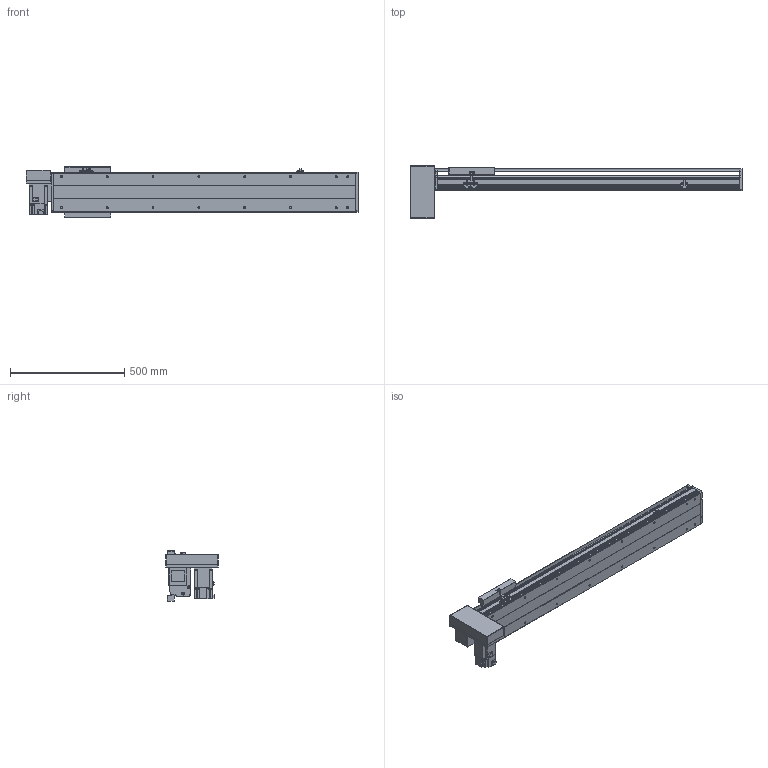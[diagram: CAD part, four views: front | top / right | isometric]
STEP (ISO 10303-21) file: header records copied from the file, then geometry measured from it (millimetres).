
FILE_DESCRIPTION(/* description */ ('STEP AP214'),/* implementation_level */ '2;1');
FILE_NAME(/* name */ 'PBS200-P40-S950-RD-T75-C1-N(0)',/* time_stamp */ '2022-06-11T09:28:55+02:00',/* author */ ('License CC BY-ND 4.0'),/* organization */ ('CADENAS'),/* preprocessor_version */ 'ST-DEVELOPER v18.102',/* originating_system */ 'PARTsolutions',/* authorisation */ ' ');
FILE_SCHEMA (('FEATURE_BASED_PROCESS_PLANNING','MODEL_BASED_INTEGRATED_MANUFACTURING_SCHEMA','AUTOMOTIVE_DESIGN {1 0 10303 214 3 1 1}'));
Length unit declared in the file: millimetre
Products named in the file (7): PBS200-P40-S950-RD-T75-C1-N(0); PBS200_sensor; PBS200_plant; PBS200_sliser; T75-p1; PBS200T-RD_motors; PBS200-S950()_body
Assembly tree (8 placements, depth 2):
  PBS200-P40-S950-RD-T75-C1-N(0)
    PBS200_sensor  x3
    PBS200_plant
    PBS200_sliser
    T75-p1
    PBS200T-RD_motors
    PBS200-S950()_body
Bounding box: 1450 x 230 x 221 mm (x, y, z)
Volume: 10924655.7 mm3; surface area: 1770559.3 mm2
Topology: 8 solids, 8 shells, 920 faces, 2374 edges, 1548 vertices
Faces by surface type: plane 574, cylinder 298, cone 48
Full cylindrical faces by diameter (mm): 2.459 x6, 3.242 x4, 4.5 x6, 4.917 x4, 5 x6, 6 x7, 6.6 x8, 6.647 x20, 8 x6, 10 x4, 12 x8, 38 x2, 40 x1, 70 x1
Entity records: 24581 total; most frequent: DIRECTION 4327, CARTESIAN_POINT 4192, ORIENTED_EDGE 3982, EDGE_CURVE 1991, AXIS2_PLACEMENT_3D 1507, VERTEX_POINT 1372, LINE 1313, VECTOR 1313
